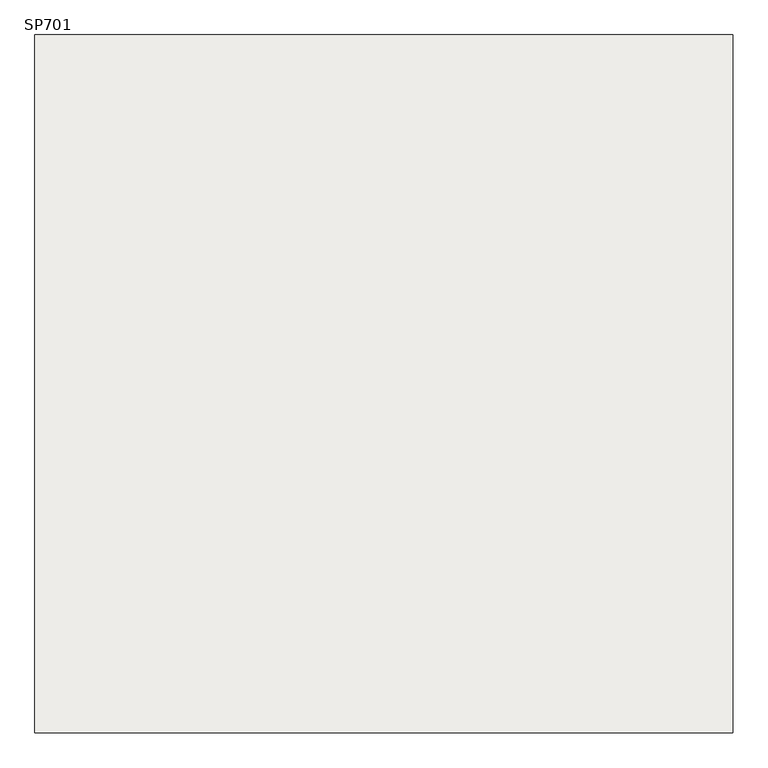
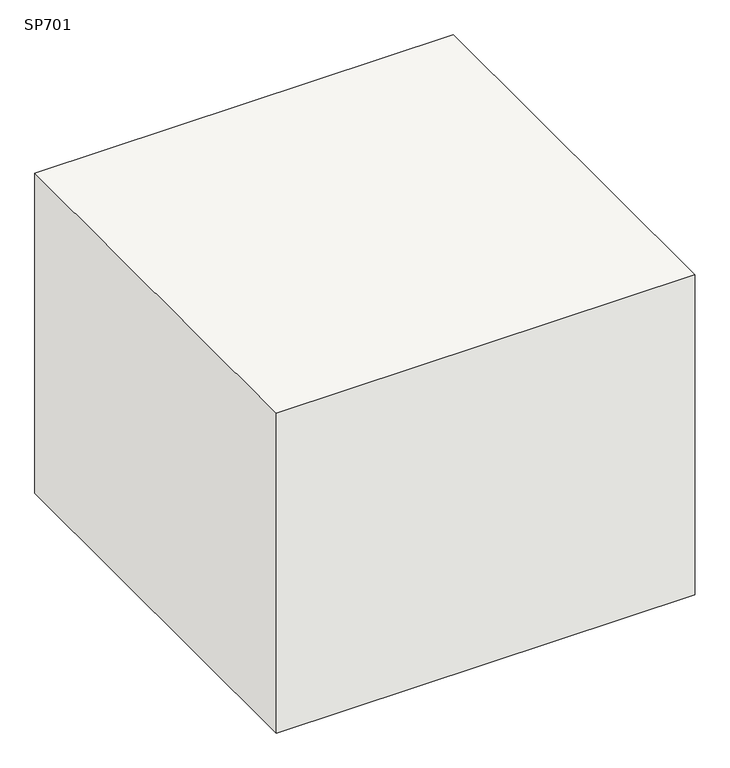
"""IFC4 building model written with IfcOpenShell, lengths in millimetres: slab geometry, 柱形_SP : SP701."""

from ifc_helpers import new_model, si_unit, frame, origin, place, context, project, spatial, polyline, outline, extrude, source, transform, mapped, element, save


def sp701_4ba59a25(model_context):
    return source(origin(), model_context, "Body", "SweptSolid", [
        extrude(outline(polyline([(650.0, 650.0), (650.0, -650.0), (-650.0, -650.0), (-650.0, 650.0), (650.0, 650.0)])), frame((0.0, 0.0, -1050.0), z_axis=(0.0, 0.0, 1.0), x_axis=(1.0, 0.0, 0.0)), (0.0, 0.0, 1.0), 1050.0),
    ])


if __name__ == "__main__":
    model = new_model("IFC4")
    model_context = context("Model", 3, world=origin())
    ifc_project = project(units=[si_unit("LENGTHUNIT", "METRE", prefix="MILLI")], contexts=[model_context])
    site = spatial("IfcSite", under=ifc_project)
    building = spatial("IfcBuilding", under=site)
    placement = place(None, origin())
    sp701_shape = sp701_4ba59a25(model_context)
    element("IfcSlab", 1, ObjectType="柱形_SP : SP701", at=placement, inside=building, context=model_context, shape_type="MappedRepresentation", body=[
        mapped(sp701_shape, transform((0.0, 0.0, 0.0), x_axis=(1.0, 0.0, 0.0), y_axis=(0.0, 1.0, 0.0), z_axis=(0.0, 0.0, 1.0))),
    ])
    save(model, "model.ifc")
